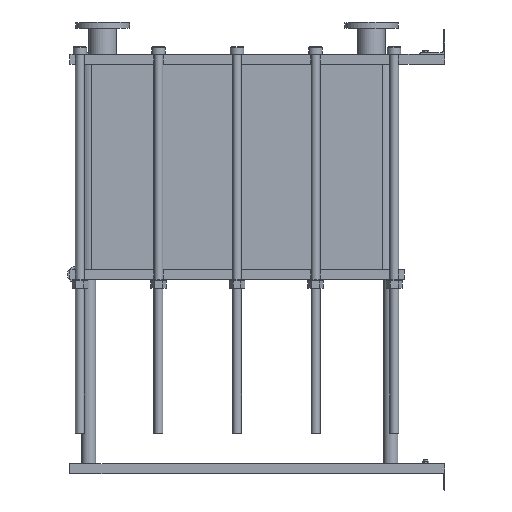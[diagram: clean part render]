
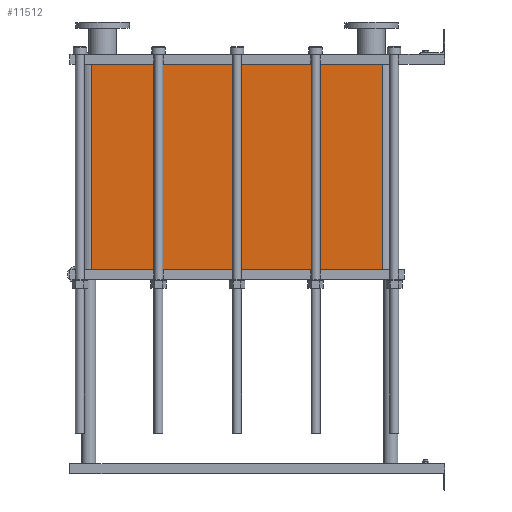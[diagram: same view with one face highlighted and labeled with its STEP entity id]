
A CAD part, left-side view. The second image highlights one B-rep face of the part: STEP entity #11512.
In plain terms, the highlighted planar face has unit normal (-1, 0, 0).
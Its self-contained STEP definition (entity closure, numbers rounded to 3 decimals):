
#1129=LINE('',#23232,#2102);
#1130=LINE('',#23236,#2103);
#1131=LINE('',#23238,#2104);
#1132=LINE('',#23239,#2105);
#2102=VECTOR('',#15887,10.);
#2103=VECTOR('',#15892,10.);
#2104=VECTOR('',#15893,10.);
#2105=VECTOR('',#15894,10.);
#3267=FACE_OUTER_BOUND('',#4093,.T.);
#4093=EDGE_LOOP('',(#10103,#10104,#10105,#10106));
#5642=VERTEX_POINT('',#23229);
#5643=VERTEX_POINT('',#23231);
#5644=VERTEX_POINT('',#23235);
#5645=VERTEX_POINT('',#23237);
#7159=EDGE_CURVE('',#5643,#5642,#1129,.T.);
#7161=EDGE_CURVE('',#5642,#5644,#1130,.T.);
#7162=EDGE_CURVE('',#5645,#5644,#1131,.T.);
#7163=EDGE_CURVE('',#5645,#5643,#1132,.T.);
#10103=ORIENTED_EDGE('',*,*,#7161,.T.);
#10104=ORIENTED_EDGE('',*,*,#7162,.F.);
#10105=ORIENTED_EDGE('',*,*,#7163,.T.);
#10106=ORIENTED_EDGE('',*,*,#7159,.T.);
#10857=PLANE('',#12751);
#11512=ADVANCED_FACE('',(#3267),#10857,.T.);
#12751=AXIS2_PLACEMENT_3D('',#23234,#15890,#15891);
#15887=DIRECTION('',(0.,0.,-1.));
#15890=DIRECTION('center_axis',(-1.,0.,0.));
#15891=DIRECTION('ref_axis',(0.,1.,0.));
#15892=DIRECTION('',(0.,-1.,0.));
#15893=DIRECTION('',(0.,0.,-1.));
#15894=DIRECTION('',(0.,1.,0.));
#23229=CARTESIAN_POINT('',(-200.,1414.,-821.1));
#23231=CARTESIAN_POINT('',(-200.,1414.,0.));
#23232=CARTESIAN_POINT('',(-200.,1414.,0.));
#23234=CARTESIAN_POINT('Origin',(-200.,248.,0.));
#23235=CARTESIAN_POINT('',(-200.,248.,-821.1));
#23236=CARTESIAN_POINT('',(-200.,539.5,-821.1));
#23237=CARTESIAN_POINT('',(-200.,248.,0.));
#23238=CARTESIAN_POINT('',(-200.,248.,0.));
#23239=CARTESIAN_POINT('',(-200.,248.,0.));
